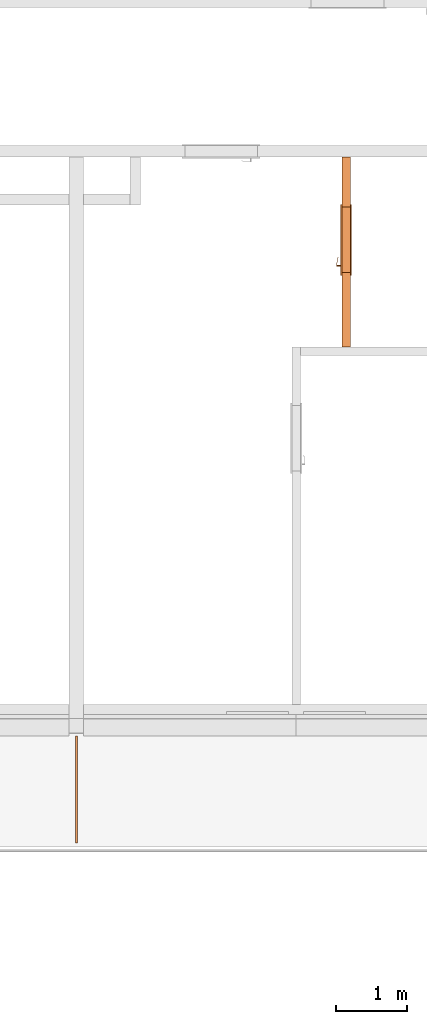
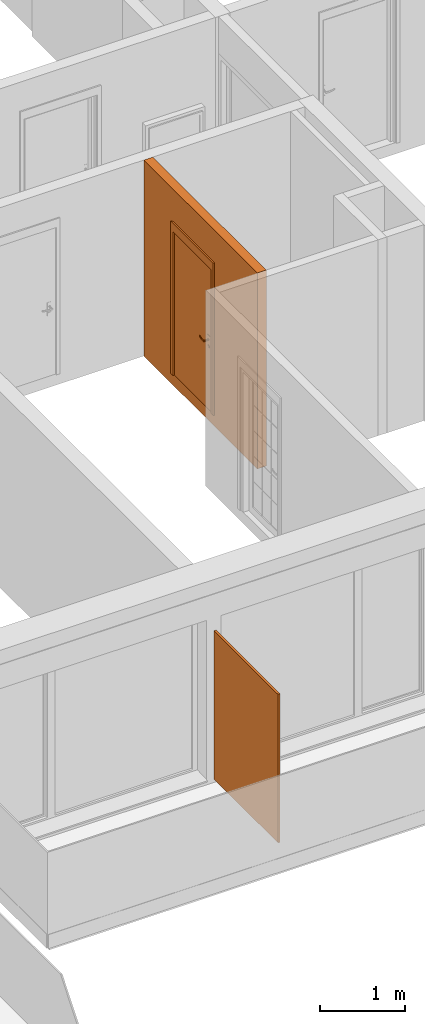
# One storey, part 15 of 64: 3 proxies, 1 opening.
"""IFC2X3 building model written with IfcOpenShell, lengths in millimetres."""

from ifc_helpers import new_model, entity, si_unit, converted_unit, derived_unit, money_unit, direction, frame, origin_with_axes, origin_2d_with_axis, place, context, subcontext, project, spatial, polyline, rectangle, outline, extrude, open_shell, faceted_brep, surface_model, source, transform, mapped, material, type_object, element, fill, save


model = new_model("IFC2X3")

# Units and contexts
model_context = context("Model", 3, precision=0.01, world=origin_with_axes(), true_north=direction((0.34421633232, 0.938890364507)))
body_context = subcontext(model_context, "Body", "Model", "MODEL_VIEW")
ifc_project = project(units=[si_unit("LENGTHUNIT", "METRE", prefix="MILLI"), si_unit("AREAUNIT", "SQUARE_METRE"), si_unit("VOLUMEUNIT", "CUBIC_METRE"), converted_unit("PLANEANGLEUNIT", "DEGREE", entity("IfcPlaneAngleMeasure", 0.0174532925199), si_unit("PLANEANGLEUNIT", "RADIAN"), dimensions=[0, 0, 0, 0, 0, 0, 0]), si_unit("SOLIDANGLEUNIT", "STERADIAN"), money_unit("USD"), converted_unit("TIMEUNIT", "Year", entity("IfcTimeMeasure", 31556926.0), si_unit("TIMEUNIT", "SECOND"), dimensions=[0, 0, 1, 0, 0, 0, 0]), si_unit("MASSUNIT", "GRAM", prefix="KILO"), si_unit("THERMODYNAMICTEMPERATUREUNIT", "DEGREE_CELSIUS"), si_unit("LUMINOUSINTENSITYUNIT", "LUMEN"), si_unit("ENERGYUNIT", "JOULE", prefix="MEGA"), derived_unit("THERMALCONDUCTANCEUNIT", [(si_unit("POWERUNIT", "WATT"), 1), (si_unit("LENGTHUNIT", "METRE"), -1), (si_unit("THERMODYNAMICTEMPERATUREUNIT", "KELVIN"), -1)]), derived_unit("SPECIFICHEATCAPACITYUNIT", [(si_unit("ENERGYUNIT", "JOULE"), 1), (si_unit("MASSUNIT", "GRAM", prefix="KILO"), -1), (si_unit("THERMODYNAMICTEMPERATUREUNIT", "KELVIN"), -1)]), derived_unit("MASSDENSITYUNIT", [(si_unit("MASSUNIT", "GRAM", prefix="KILO"), 1), (si_unit("VOLUMEUNIT", "CUBIC_METRE"), -1)])], contexts=[model_context])

# Site, building, storey
site_placement = place(None, origin_with_axes())
site = spatial("IfcSite", under=ifc_project, at=site_placement, Name="USTRONIE MORSKIE", CompositionType="ELEMENT")
building_placement = place(site_placement, origin_with_axes())
building = spatial("IfcBuilding", under=site, at=building_placement, Name="Budynek", CompositionType="ELEMENT")
storey_placement = place(building_placement, frame((0.0, 0.0, 7000.0), z_axis=(0.0, 0.0, 1.0), x_axis=(1.0, 0.0, 0.0)))
storey = spatial("IfcBuildingStorey", under=building, at=storey_placement, Name="PIĘTRO 2", CompositionType="ELEMENT", Elevation=7000.0)

# Proxies, opening
ifc_material_1 = material(Name="Bloczki silikatowe")
building_element_proxy_type_1 = type_object("IfcBuildingElementProxyType", Name="Bloczki silikatowe 120", PredefinedType="NOTDEFINED")
proxy_1_placement = place(storey_placement, frame((377097.901749, 731951.199132, -160.0), z_axis=(0.0, 0.0, 1.0), x_axis=(0.0, 1.0, 0.0)))
proxy_1 = element("IfcBuildingElementProxy", 1, at=proxy_1_placement, inside=storey, type_object=building_element_proxy_type_1, material=ifc_material_1, Name="SW-04", context=body_context, shape_type="Brep", body=[
    faceted_brep([(2720.00298174, 60.0, 0.0), (2720.00301893, -60.0, 0.0), (59.9999999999, -60.0, 0.0), (59.9999999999, 60.0, 0.0), (2720.00298174, 60.0, 2800.0), (2720.00301893, -60.0, 2800.0), (59.9999999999, -60.0, 2800.0), (59.9999999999, 60.0, 2800.0)], [[[0, 1, 2, 3]], [[1, 0, 4, 5]], [[1, 5, 6, 2]], [[7, 3, 2, 6]], [[4, 0, 3, 7]], [[5, 4, 7, 6]]]),
])
opening_placement = place(proxy_1_placement, frame((1559.96669926, 0.0, 160.0), z_axis=(0.0, 0.0, 1.0), x_axis=(1.0, 0.0, 0.0)))
opening = element("IfcOpeningElement", 2, at=opening_placement, cuts=proxy_1, Name="Dw.4", context=body_context, shape_type="SweptSolid", body=[
    extrude(rectangle(XDim=920.0, YDim=2070.0, at=origin_2d_with_axis()), frame((0.0, -120.0, 1035.0), z_axis=(0.0, 1.0, 0.0), x_axis=(1.0, 0.0, 0.0)), (0.0, 0.0, 1.0), 360.0),
    extrude(rectangle(XDim=994.0, YDim=2177.0, at=origin_2d_with_axis()), frame((0.0, -60.0, 1088.5), z_axis=(0.0, 1.0, 0.0), x_axis=(1.0, 0.0, 0.0)), (0.0, 0.0, -1.0), 120.0),
    extrude(rectangle(XDim=994.0, YDim=2177.0, at=origin_2d_with_axis()), frame((0.0, 60.0, 1088.5), z_axis=(0.0, -1.0, 0.0), x_axis=(1.0, 0.0, 0.0)), (0.0, 0.0, -1.0), 120.0),
])
building_element_proxy_type_2 = type_object("IfcBuildingElementProxyType", Name="Drzwi 23", PredefinedType="NOTDEFINED")
shared_shape = source(origin_with_axes(), body_context, "Body", "SurfaceModel", [
    faceted_brep([(-460.0, -115.0, 0.0), (-435.0, -115.0, 0.0), (-435.0, -120.0, 0.0), (-460.0, -120.0, 0.0), (-460.0, -115.0, 2070.0), (-435.0, -115.0, 2045.0), (-435.0, -120.0, 2045.0), (-460.0, -120.0, 2070.0)], [[[0, 1, 2, 3]], [[0, 4, 5, 1]], [[1, 5, 6, 2]], [[3, 2, 6, 7]], [[4, 0, 3, 7]], [[5, 4, 7, 6]]]),
    faceted_brep([(460.0, -115.0, 2070.0), (435.0, -115.0, 2045.0), (435.0, -120.0, 2045.0), (460.0, -120.0, 2070.0), (460.0, -115.0, 0.0), (435.0, -115.0, 0.0), (435.0, -120.0, 0.0), (460.0, -120.0, 0.0)], [[[0, 1, 2, 3]], [[0, 4, 5, 1]], [[1, 5, 6, 2]], [[3, 2, 6, 7]], [[4, 0, 3, 7]], [[5, 4, 7, 6]]]),
    faceted_brep([(-435.0, -115.0, 2045.0), (435.0, -115.0, 2045.0), (435.0, -120.0, 2045.0), (-435.0, -120.0, 2045.0), (-460.0, -115.0, 2070.0), (460.0, -115.0, 2070.0), (460.0, -120.0, 2070.0), (-460.0, -120.0, 2070.0)], [[[0, 1, 2, 3]], [[0, 4, 5, 1]], [[1, 5, 6, 2]], [[3, 2, 6, 7]], [[4, 0, 3, 7]], [[5, 4, 7, 6]]]),
    faceted_brep([(-497.0, -139.0, 0.0), (-497.0, -120.0, 0.0), (-447.0, -120.0, 0.0), (-447.0, -139.0, 0.0), (-497.0, -139.0, 2177.0), (-497.0, -120.0, 2177.0), (-447.0, -120.0, 2057.0), (-447.0, -139.0, 2057.0)], [[[0, 1, 2, 3]], [[4, 5, 1, 0]], [[1, 5, 6, 2]], [[3, 2, 6, 7]], [[0, 3, 7, 4]], [[7, 6, 5, 4]]]),
    faceted_brep([(497.0, -139.0, 2177.0), (497.0, -120.0, 2177.0), (447.0, -120.0, 2057.0), (447.0, -139.0, 2057.0), (497.0, -139.0, 0.0), (497.0, -120.0, 0.0), (447.0, -120.0, 0.0), (447.0, -139.0, 0.0)], [[[0, 1, 2, 3]], [[4, 5, 1, 0]], [[1, 5, 6, 2]], [[3, 2, 6, 7]], [[0, 3, 7, 4]], [[7, 6, 5, 4]]]),
    faceted_brep([(-497.0, -139.0, 2177.0), (-497.0, -120.0, 2177.0), (-447.0, -120.0, 2057.0), (-447.0, -139.0, 2057.0), (497.0, -139.0, 2177.0), (497.0, -120.0, 2177.0), (447.0, -120.0, 2057.0), (447.0, -139.0, 2057.0)], [[[0, 1, 2, 3]], [[4, 5, 1, 0]], [[1, 5, 6, 2]], [[3, 2, 6, 7]], [[0, 3, 7, 4]], [[7, 6, 5, 4]]]),
    faceted_brep([(-497.0, 19.0, 0.0), (-447.0, 19.0, 0.0), (-447.0, 0.0, 0.0), (-497.0, 0.0, 0.0), (-497.0, 19.0, 2177.0), (-447.0, 19.0, 2057.0), (-447.0, 0.0, 2057.0), (-497.0, 0.0, 2177.0)], [[[0, 1, 2, 3]], [[0, 4, 5, 1]], [[1, 5, 6, 2]], [[3, 2, 6, 7]], [[4, 0, 3, 7]], [[5, 4, 7, 6]]]),
    faceted_brep([(497.0, 19.0, 2177.0), (447.0, 19.0, 2057.0), (447.0, 0.0, 2057.0), (497.0, 0.0, 2177.0), (497.0, 19.0, 0.0), (447.0, 19.0, 0.0), (447.0, 0.0, 0.0), (497.0, 0.0, 0.0)], [[[0, 1, 2, 3]], [[0, 4, 5, 1]], [[1, 5, 6, 2]], [[3, 2, 6, 7]], [[4, 0, 3, 7]], [[5, 4, 7, 6]]]),
    faceted_brep([(-497.0, 19.0, 2177.0), (-447.0, 19.0, 2057.0), (-447.0, 0.0, 2057.0), (-497.0, 0.0, 2177.0), (497.0, 19.0, 2177.0), (447.0, 19.0, 2057.0), (447.0, 0.0, 2057.0), (497.0, 0.0, 2177.0)], [[[0, 1, 2, 3]], [[0, 4, 5, 1]], [[1, 5, 6, 2]], [[3, 2, 6, 7]], [[4, 0, 3, 7]], [[5, 4, 7, 6]]]),
    faceted_brep([(-400.0, -40.0, 0.0), (-400.0, -40.0, 2000.0), (-400.0, -115.0, 2000.0), (-400.0, -115.0, 0.0), (-412.0, -40.0, 2000.0), (-412.0, -40.0, 0.0), (-412.0, 0.0, 2000.0), (-460.0, 0.0, 2000.0), (-460.0, -115.0, 2000.0), (-460.0, -115.0, 0.0), (-460.0, 0.0, 0.0), (-412.0, 0.0, 0.0)], [[[0, 1, 2, 3]], [[4, 1, 0, 5]], [[4, 6, 7, 8, 2, 1]], [[3, 2, 8, 9]], [[5, 0, 3, 9, 10, 11]], [[6, 4, 5, 11]], [[6, 11, 10, 7]], [[10, 9, 8, 7]]]),
    faceted_brep([(412.0, -40.0, 2000.0), (400.0, -40.0, 2000.0), (400.0, -115.0, 2000.0), (460.0, -115.0, 2000.0), (460.0, 0.0, 2000.0), (412.0, 0.0, 2000.0), (412.0, -40.0, 0.0), (400.0, -40.0, 0.0), (400.0, -115.0, 0.0), (460.0, -115.0, 0.0), (460.0, 0.0, 0.0), (412.0, 0.0, 0.0)], [[[0, 1, 2, 3, 4, 5]], [[1, 0, 6, 7]], [[1, 7, 8, 2]], [[3, 2, 8, 9]], [[4, 3, 9, 10]], [[11, 5, 4, 10]], [[0, 5, 11, 6]], [[6, 11, 10, 9, 8, 7]]]),
    faceted_brep([(-412.0, 0.0, 2012.0), (-412.0, 0.0, 2000.0), (-460.0, 0.0, 2000.0), (-460.0, 0.0, 2070.0), (460.0, 0.0, 2070.0), (460.0, 0.0, 2000.0), (412.0, 0.0, 2000.0), (412.0, 0.0, 2012.0), (-412.0, -40.0, 2012.0), (-412.0, -40.0, 2000.0), (-400.0, -40.0, 2000.0), (-400.0, -115.0, 2000.0), (-460.0, -115.0, 2000.0), (-460.0, -115.0, 2070.0), (460.0, -115.0, 2070.0), (460.0, -115.0, 2000.0), (412.0, -40.0, 2000.0), (400.0, -115.0, 2000.0), (400.0, -40.0, 2000.0), (412.0, -40.0, 2012.0)], [[[0, 1, 2, 3, 4, 5, 6, 7]], [[1, 0, 8, 9]], [[9, 10, 11, 12, 2, 1]], [[2, 12, 13, 3]], [[3, 13, 14, 4]], [[4, 14, 15, 5]], [[16, 6, 5, 15, 17, 18]], [[7, 6, 16, 19]], [[0, 7, 19, 8]], [[16, 18, 10, 9, 8, 19]], [[10, 18, 17, 11]], [[17, 15, 14, 13, 12, 11]]]),
    faceted_brep([(-390.5, -40.0, 1060.0), (-390.5, -43.0, 1060.0), (-333.5, -43.0, 1060.0), (-333.5, -40.0, 1060.0), (-390.5, -40.0, 870.0), (-390.5, -43.0, 870.0), (-333.5, -43.0, 870.0), (-333.5, -40.0, 870.0)], [[[0, 1, 2, 3]], [[4, 5, 1, 0]], [[1, 5, 6, 2]], [[3, 2, 6, 7]], [[0, 3, 7, 4]], [[7, 6, 5, 4]]]),
    faceted_brep([(-362.0, -104.0, 990.0), (-362.0, -111.0, 990.0), (-367.0, -111.0, 991.339745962), (-367.0, -104.0, 991.339745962), (-337.0, -104.0, 990.0), (-337.0, -111.0, 990.0), (-337.0, -111.0, 1010.0), (-362.0, -111.0, 1010.0), (-367.0, -111.0, 1008.66025404), (-370.660254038, -111.0, 1005.0), (-372.0, -111.0, 1000.0), (-370.660254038, -111.0, 995.0), (-370.660254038, -104.0, 995.0), (-372.0, -104.0, 1000.0), (-370.660254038, -104.0, 1005.0), (-367.0, -104.0, 1008.66025404), (-362.0, -104.0, 1010.0), (-337.0, -104.0, 1010.0)], [[[0, 1, 2, 3]], [[4, 5, 1, 0]], [[1, 5, 6, 7, 8, 9, 10, 11, 2]], [[3, 2, 11, 12]], [[0, 3, 12, 13, 14, 15, 16, 17, 4]], [[17, 6, 5, 4]], [[16, 7, 6, 17]], [[15, 8, 7, 16]], [[14, 9, 8, 15]], [[13, 10, 9, 14]], [[12, 11, 10, 13]]]),
    surface_model("IfcShellBasedSurfaceModel", [(-337.0, -104.0, 1010.0), (-323.596090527, -111.0, 1009.60730092), (-323.901717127, -104.0, 1009.60730092), (-337.0, -111.0, 1010.0), (-296.890283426, -108.663544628, 1008.82190275), (-323.901717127, -104.0, 990.392699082), (-337.0, -104.0, 990.0), (-337.0, -111.0, 990.0), (-323.596090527, -111.0, 990.392699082), (-296.890283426, -108.663544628, 991.178097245), (-297.804837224, -101.716818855, 1008.82190275), (-297.804837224, -101.716818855, 991.178097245), (-270.489735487, -104.008415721, 991.963495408), (-270.489735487, -104.008415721, 1008.03650459), (-272.006256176, -97.1678329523, 1008.03650459), (-272.006256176, -97.1678329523, 991.963495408), (-244.59537082, -97.0700416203, 992.748893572), (-244.59537082, -97.0700416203, 1007.25110643), (-246.702316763, -90.3876628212, 1007.25110643), (-246.702316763, -90.3876628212, 992.748893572), (-236.538795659, -94.1376880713, 993.0), (-236.538795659, -94.1376880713, 1007.0), (-238.829442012, -87.5221707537, 1007.0), (-238.829442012, -87.5221707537, 993.0)], [open_shell([[[0, 1, 2]], [[0, 3, 1]], [[2, 1, 4]], [[0, 2, 5, 6]], [[3, 7, 8, 1]], [[1, 8, 9, 4]], [[2, 4, 10]], [[2, 10, 11, 5]], [[5, 7, 6]], [[5, 8, 7]], [[11, 9, 8]], [[4, 9, 12, 13]], [[10, 4, 13]], [[10, 14, 15, 11]], [[11, 8, 5]], [[15, 9, 11]], [[15, 12, 9]], [[13, 12, 16, 17]], [[10, 13, 14]], [[14, 18, 19, 15]], [[19, 12, 15]], [[19, 16, 12]], [[17, 16, 20, 21]], [[14, 13, 17]], [[14, 17, 18]], [[18, 22, 23, 19]], [[23, 16, 19]], [[23, 20, 16]], [[22, 21, 20, 23]], [[18, 17, 21]], [[18, 21, 22]]])]),
    faceted_brep([(-351.607695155, -53.0, 994.0), (-350.741669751, -43.0, 993.5), (-349.0, -43.0, 1000.0), (-350.0, -53.0, 1000.0), (-356.0, -53.0, 989.607695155), (-355.5, -43.0, 988.741669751), (-362.0, -43.0, 987.0), (-368.5, -43.0, 988.741669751), (-373.258330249, -43.0, 993.5), (-375.0, -43.0, 1000.0), (-373.258330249, -43.0, 1006.5), (-368.5, -43.0, 1011.25833025), (-362.0, -43.0, 1013.0), (-355.5, -43.0, 1011.25833025), (-350.741669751, -43.0, 1006.5), (-351.607695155, -53.0, 1006.0), (-356.0, -53.0, 1010.39230485), (-362.0, -53.0, 1012.0), (-368.0, -53.0, 1010.39230485), (-372.392304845, -53.0, 1006.0), (-374.0, -53.0, 1000.0), (-372.392304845, -53.0, 994.0), (-368.0, -53.0, 989.607695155), (-362.0, -53.0, 988.0)], [[[0, 1, 2, 3]], [[4, 5, 1, 0]], [[2, 1, 5, 6, 7, 8, 9, 10, 11, 12, 13, 14]], [[3, 2, 14, 15]], [[3, 15, 16, 17, 18, 19, 20, 21, 22, 23, 4, 0]], [[23, 6, 5, 4]], [[22, 7, 6, 23]], [[21, 8, 7, 22]], [[20, 9, 8, 21]], [[19, 10, 9, 20]], [[18, 11, 10, 19]], [[17, 12, 11, 18]], [[16, 13, 12, 17]], [[15, 14, 13, 16]]]),
    faceted_brep([(-344.679491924, -47.0, 895.0), (-342.947441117, -43.0, 894.0), (-340.0, -43.0, 905.0), (-342.0, -47.0, 905.0), (-352.0, -47.0, 887.679491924), (-351.0, -43.0, 885.947441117), (-362.0, -43.0, 883.0), (-373.0, -43.0, 885.947441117), (-381.052558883, -43.0, 894.0), (-384.0, -43.0, 905.0), (-381.052558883, -43.0, 916.0), (-373.0, -43.0, 924.052558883), (-362.0, -43.0, 927.0), (-351.0, -43.0, 924.052558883), (-342.947441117, -43.0, 916.0), (-344.679491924, -47.0, 915.0), (-352.0, -47.0, 922.320508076), (-362.0, -47.0, 925.0), (-372.0, -47.0, 922.320508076), (-379.320508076, -47.0, 915.0), (-382.0, -47.0, 905.0), (-379.320508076, -47.0, 895.0), (-372.0, -47.0, 887.679491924), (-362.0, -47.0, 885.0)], [[[0, 1, 2, 3]], [[4, 5, 1, 0]], [[2, 1, 5, 6, 7, 8, 9, 10, 11, 12, 13, 14]], [[3, 2, 14, 15]], [[3, 15, 16, 17, 18, 19, 20, 21, 22, 23, 4, 0]], [[23, 6, 5, 4]], [[22, 7, 6, 23]], [[21, 8, 7, 22]], [[20, 9, 8, 21]], [[19, 10, 9, 20]], [[18, 11, 10, 19]], [[17, 12, 11, 18]], [[16, 13, 12, 17]], [[15, 14, 13, 16]]]),
    faceted_brep([(-357.050252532, -49.0, 909.050252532), (-356.343145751, -47.0, 908.343145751), (-354.0, -47.0, 914.0), (-355.0, -49.0, 914.0), (-362.0, -49.0, 907.0), (-362.0, -47.0, 906.0), (-367.656854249, -47.0, 908.343145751), (-370.0, -47.0, 914.0), (-367.656854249, -47.0, 919.656854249), (-362.0, -47.0, 922.0), (-356.343145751, -47.0, 919.656854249), (-357.050252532, -49.0, 918.949747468), (-362.0, -49.0, 921.0), (-366.949747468, -49.0, 918.949747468), (-369.0, -49.0, 914.0), (-366.949747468, -49.0, 909.050252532)], [[[0, 1, 2, 3]], [[4, 5, 1, 0]], [[2, 1, 5, 6, 7, 8, 9, 10]], [[3, 2, 10, 11]], [[3, 11, 12, 13, 14, 15, 4, 0]], [[15, 6, 5, 4]], [[14, 7, 6, 15]], [[13, 8, 7, 14]], [[12, 9, 8, 13]], [[11, 10, 9, 12]]]),
    faceted_brep([(-362.0, -53.0, 1010.0), (-362.0, -104.0, 1010.0), (-357.0, -104.0, 1008.66025404), (-357.0, -53.0, 1008.66025404), (-367.0, -53.0, 1008.66025404), (-367.0, -104.0, 1008.66025404), (-370.660254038, -104.0, 1005.0), (-372.0, -104.0, 1000.0), (-370.660254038, -104.0, 995.0), (-367.0, -104.0, 991.339745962), (-362.0, -104.0, 990.0), (-357.0, -104.0, 991.339745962), (-353.339745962, -104.0, 995.0), (-352.0, -104.0, 1000.0), (-353.339745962, -104.0, 1005.0), (-353.339745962, -53.0, 1005.0), (-352.0, -53.0, 1000.0), (-353.339745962, -53.0, 995.0), (-357.0, -53.0, 991.339745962), (-362.0, -53.0, 990.0), (-367.0, -53.0, 991.339745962), (-370.660254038, -53.0, 995.0), (-372.0, -53.0, 1000.0), (-370.660254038, -53.0, 1005.0)], [[[0, 1, 2, 3]], [[4, 5, 1, 0]], [[1, 5, 6, 7, 8, 9, 10, 11, 12, 13, 14, 2]], [[3, 2, 14, 15]], [[0, 3, 15, 16, 17, 18, 19, 20, 21, 22, 23, 4]], [[23, 6, 5, 4]], [[22, 7, 6, 23]], [[21, 8, 7, 22]], [[20, 9, 8, 21]], [[19, 10, 9, 20]], [[18, 11, 10, 19]], [[17, 12, 11, 18]], [[16, 13, 12, 17]], [[15, 14, 13, 16]]]),
    faceted_brep([(-390.5, 0.0, 1060.0), (-333.5, 0.0, 1060.0), (-333.5, 3.0, 1060.0), (-390.5, 3.0, 1060.0), (-390.5, 0.0, 870.0), (-333.5, 0.0, 870.0), (-333.5, 3.0, 870.0), (-390.5, 3.0, 870.0)], [[[0, 1, 2, 3]], [[0, 4, 5, 1]], [[1, 5, 6, 2]], [[3, 2, 6, 7]], [[4, 0, 3, 7]], [[5, 4, 7, 6]]]),
    faceted_brep([(-362.0, 64.0, 990.0), (-367.0, 64.0, 991.339745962), (-367.0, 71.0, 991.339745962), (-362.0, 71.0, 990.0), (-337.0, 64.0, 990.0), (-337.0, 64.0, 1010.0), (-362.0, 64.0, 1010.0), (-367.0, 64.0, 1008.66025404), (-370.660254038, 64.0, 1005.0), (-372.0, 64.0, 1000.0), (-370.660254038, 64.0, 995.0), (-370.660254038, 71.0, 995.0), (-372.0, 71.0, 1000.0), (-370.660254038, 71.0, 1005.0), (-367.0, 71.0, 1008.66025404), (-362.0, 71.0, 1010.0), (-337.0, 71.0, 1010.0), (-337.0, 71.0, 990.0)], [[[0, 1, 2, 3]], [[0, 4, 5, 6, 7, 8, 9, 10, 1]], [[1, 10, 11, 2]], [[3, 2, 11, 12, 13, 14, 15, 16, 17]], [[4, 0, 3, 17]], [[5, 4, 17, 16]], [[6, 5, 16, 15]], [[7, 6, 15, 14]], [[8, 7, 14, 13]], [[9, 8, 13, 12]], [[10, 9, 12, 11]]]),
    surface_model("IfcShellBasedSurfaceModel", [(-337.0, 64.0, 1010.0), (-323.901717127, 64.0, 1009.60730092), (-323.596090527, 71.0, 1009.60730092), (-337.0, 64.0, 990.0), (-323.901717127, 64.0, 990.392699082), (-296.890283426, 68.6635446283, 1008.82190275), (-337.0, 71.0, 1010.0), (-337.0, 71.0, 990.0), (-297.804837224, 61.716818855, 991.178097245), (-297.804837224, 61.716818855, 1008.82190275), (-296.890283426, 68.6635446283, 991.178097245), (-323.596090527, 71.0, 990.392699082), (-272.006256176, 57.1678329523, 991.963495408), (-272.006256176, 57.1678329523, 1008.03650459), (-270.489735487, 64.0084157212, 1008.03650459), (-270.489735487, 64.0084157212, 991.963495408), (-246.702316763, 50.3876628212, 992.748893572), (-246.702316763, 50.3876628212, 1007.25110643), (-244.59537082, 57.0700416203, 1007.25110643), (-244.59537082, 57.0700416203, 992.748893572), (-238.829442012, 47.5221707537, 993.0), (-238.829442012, 47.5221707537, 1007.0), (-236.538795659, 54.1376880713, 1007.0), (-236.538795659, 54.1376880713, 993.0)], [open_shell([[[0, 1, 2]], [[0, 3, 4, 1]], [[1, 5, 2]], [[0, 2, 6]], [[4, 3, 7]], [[1, 4, 8, 9]], [[1, 9, 5]], [[2, 5, 10, 11]], [[6, 2, 11, 7]], [[4, 7, 11]], [[8, 4, 11]], [[9, 8, 12, 13]], [[9, 14, 5]], [[5, 14, 15, 10]], [[8, 11, 10]], [[12, 8, 10]], [[13, 12, 16, 17]], [[9, 13, 14]], [[14, 18, 19, 15]], [[12, 10, 15]], [[16, 12, 15]], [[17, 16, 20, 21]], [[13, 17, 18]], [[13, 18, 14]], [[18, 22, 23, 19]], [[16, 15, 19]], [[20, 16, 19]], [[21, 20, 23, 22]], [[17, 21, 22]], [[17, 22, 18]], [[20, 19, 23]]])]),
    faceted_brep([(-351.607695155, 13.0, 994.0), (-350.0, 13.0, 1000.0), (-349.0, 3.0, 1000.0), (-350.741669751, 3.0, 993.5), (-356.0, 13.0, 989.607695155), (-362.0, 13.0, 988.0), (-368.0, 13.0, 989.607695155), (-372.392304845, 13.0, 994.0), (-374.0, 13.0, 1000.0), (-372.392304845, 13.0, 1006.0), (-368.0, 13.0, 1010.39230485), (-362.0, 13.0, 1012.0), (-356.0, 13.0, 1010.39230485), (-351.607695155, 13.0, 1006.0), (-350.741669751, 3.0, 1006.5), (-355.5, 3.0, 1011.25833025), (-362.0, 3.0, 1013.0), (-368.5, 3.0, 1011.25833025), (-373.258330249, 3.0, 1006.5), (-375.0, 3.0, 1000.0), (-373.258330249, 3.0, 993.5), (-368.5, 3.0, 988.741669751), (-362.0, 3.0, 987.0), (-355.5, 3.0, 988.741669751)], [[[0, 1, 2, 3]], [[1, 0, 4, 5, 6, 7, 8, 9, 10, 11, 12, 13]], [[1, 13, 14, 2]], [[2, 14, 15, 16, 17, 18, 19, 20, 21, 22, 23, 3]], [[4, 0, 3, 23]], [[5, 4, 23, 22]], [[6, 5, 22, 21]], [[7, 6, 21, 20]], [[8, 7, 20, 19]], [[9, 8, 19, 18]], [[10, 9, 18, 17]], [[11, 10, 17, 16]], [[12, 11, 16, 15]], [[13, 12, 15, 14]]]),
    faceted_brep([(-344.679491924, 7.0, 895.0), (-342.0, 7.0, 905.0), (-340.0, 3.0, 905.0), (-342.947441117, 3.0, 894.0), (-352.0, 7.0, 887.679491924), (-362.0, 7.0, 885.0), (-372.0, 7.0, 887.679491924), (-379.320508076, 7.0, 895.0), (-382.0, 7.0, 905.0), (-379.320508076, 7.0, 915.0), (-372.0, 7.0, 922.320508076), (-362.0, 7.0, 925.0), (-352.0, 7.0, 922.320508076), (-344.679491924, 7.0, 915.0), (-342.947441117, 3.0, 916.0), (-351.0, 3.0, 924.052558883), (-362.0, 3.0, 927.0), (-373.0, 3.0, 924.052558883), (-381.052558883, 3.0, 916.0), (-384.0, 3.0, 905.0), (-381.052558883, 3.0, 894.0), (-373.0, 3.0, 885.947441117), (-362.0, 3.0, 883.0), (-351.0, 3.0, 885.947441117)], [[[0, 1, 2, 3]], [[1, 0, 4, 5, 6, 7, 8, 9, 10, 11, 12, 13]], [[1, 13, 14, 2]], [[2, 14, 15, 16, 17, 18, 19, 20, 21, 22, 23, 3]], [[4, 0, 3, 23]], [[5, 4, 23, 22]], [[6, 5, 22, 21]], [[7, 6, 21, 20]], [[8, 7, 20, 19]], [[9, 8, 19, 18]], [[10, 9, 18, 17]], [[11, 10, 17, 16]], [[12, 11, 16, 15]], [[13, 12, 15, 14]]]),
    faceted_brep([(-357.050252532, 9.0, 909.050252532), (-355.0, 9.0, 914.0), (-354.0, 7.0, 914.0), (-356.343145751, 7.0, 908.343145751), (-362.0, 9.0, 907.0), (-366.949747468, 9.0, 909.050252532), (-369.0, 9.0, 914.0), (-366.949747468, 9.0, 918.949747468), (-362.0, 9.0, 921.0), (-357.050252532, 9.0, 918.949747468), (-356.343145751, 7.0, 919.656854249), (-362.0, 7.0, 922.0), (-367.656854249, 7.0, 919.656854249), (-370.0, 7.0, 914.0), (-367.656854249, 7.0, 908.343145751), (-362.0, 7.0, 906.0)], [[[0, 1, 2, 3]], [[1, 0, 4, 5, 6, 7, 8, 9]], [[1, 9, 10, 2]], [[2, 10, 11, 12, 13, 14, 15, 3]], [[4, 0, 3, 15]], [[5, 4, 15, 14]], [[6, 5, 14, 13]], [[7, 6, 13, 12]], [[8, 7, 12, 11]], [[9, 8, 11, 10]]]),
    faceted_brep([(-362.0, 13.0, 1010.0), (-357.0, 13.0, 1008.66025404), (-357.0, 64.0, 1008.66025404), (-362.0, 64.0, 1010.0), (-367.0, 13.0, 1008.66025404), (-370.660254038, 13.0, 1005.0), (-372.0, 13.0, 1000.0), (-370.660254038, 13.0, 995.0), (-367.0, 13.0, 991.339745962), (-362.0, 13.0, 990.0), (-357.0, 13.0, 991.339745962), (-353.339745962, 13.0, 995.0), (-352.0, 13.0, 1000.0), (-353.339745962, 13.0, 1005.0), (-353.339745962, 64.0, 1005.0), (-352.0, 64.0, 1000.0), (-353.339745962, 64.0, 995.0), (-357.0, 64.0, 991.339745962), (-362.0, 64.0, 990.0), (-367.0, 64.0, 991.339745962), (-370.660254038, 64.0, 995.0), (-372.0, 64.0, 1000.0), (-370.660254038, 64.0, 1005.0), (-367.0, 64.0, 1008.66025404)], [[[0, 1, 2, 3]], [[0, 4, 5, 6, 7, 8, 9, 10, 11, 12, 13, 1]], [[1, 13, 14, 2]], [[3, 2, 14, 15, 16, 17, 18, 19, 20, 21, 22, 23]], [[4, 0, 3, 23]], [[5, 4, 23, 22]], [[6, 5, 22, 21]], [[7, 6, 21, 20]], [[8, 7, 20, 19]], [[9, 8, 19, 18]], [[10, 9, 18, 17]], [[11, 10, 17, 16]], [[12, 11, 16, 15]], [[13, 12, 15, 14]]]),
    faceted_brep([(412.0, 0.0, 0.0), (412.0, -40.0, 0.0), (-412.0, -40.0, 0.0), (-412.0, 0.0, 0.0), (412.0, 0.0, 2012.0), (412.0, -40.0, 2012.0), (-412.0, -40.0, 2012.0), (-412.0, 0.0, 2012.0)], [[[0, 1, 2, 3]], [[4, 5, 1, 0]], [[1, 5, 6, 2]], [[3, 2, 6, 7]], [[0, 3, 7, 4]], [[7, 6, 5, 4]]]),
])
proxy_2_placement = place(opening_placement, frame((-400.0, 0.0, 0.0), z_axis=(0.0, 0.0, 1.0), x_axis=(1.0, 0.0, 0.0)))
proxy_2 = element("IfcBuildingElementProxy", 3, at=proxy_2_placement, inside=storey, type_object=building_element_proxy_type_2, Name="Dw.4", context=body_context, shape_type="MappedRepresentation", body=[
    mapped(shared_shape, transform((400.0, 60.0, 0.0))),
])
fill(opening, proxy_2)

# Proxy
ifc_material_2 = material(Name="Woda")
building_element_proxy_type_3 = type_object("IfcBuildingElementProxyType", Name="Woda 30", PredefinedType="NOTDEFINED")
proxy_3_placement = place(storey_placement, frame((373317.920919, 726561.18631, 20.0), z_axis=(0.0, 0.0, 1.0), x_axis=(0.0, -1.0, 0.0)))
element("IfcBuildingElementProxy", 4, at=proxy_3_placement, inside=storey, type_object=building_element_proxy_type_3, material=ifc_material_2, Name="Œciana-007", context=body_context, shape_type="SweptSolid", body=[
    extrude(outline(polyline([(0.0, -15.0), (1500.0, -15.0), (1500.0, 15.0), (0.0, 15.0), (0.0, -15.0)])), origin_with_axes(), (0.0, 0.0, 1.0), 2120.0),
])

save(model, "model.ifc")
